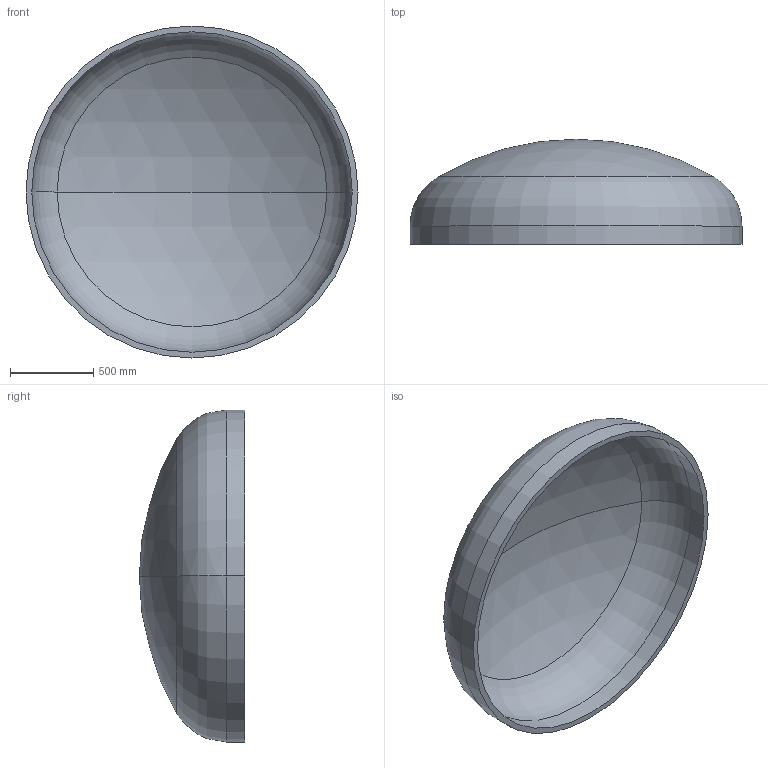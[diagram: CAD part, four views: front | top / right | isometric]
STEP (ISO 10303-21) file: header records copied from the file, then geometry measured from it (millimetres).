
FILE_DESCRIPTION (( 'STEP AP203' ), '1' );
FILE_NAME ('DIN 28013 Korbbogenform_-_Boden DIN 28013 - 2000 x 110 - I - s=35.step', '2016-07-01T13:48:49', ( '' ), ( '' ), 'SwSTEP 2.0', 'SolidWorks 2013', '' );
FILE_SCHEMA (( 'CONFIG_CONTROL_DESIGN' ));
Length unit declared in the file: millimetre
Products named in the file (1): DIN 28013 Korbbogenform_-_Boden DIN 28013 - 2000 x 110 - I - s=35
Bounding box: 2000 x 633.66 x 2000 mm (x, y, z)
Volume: 172771239.8 mm3; surface area: 10091267.7 mm2
Topology: 1 solids, 1 shells, 13 faces, 24 edges, 14 vertices
Faces by surface type: torus 4, cylinder 4, sphere 4, plane 1
Entity records: 407 total; most frequent: DIRECTION 72, CARTESIAN_POINT 52, ORIENTED_EDGE 48, AXIS2_PLACEMENT_3D 34, EDGE_CURVE 24, CIRCLE 20, EDGE_LOOP 14, VERTEX_POINT 14
